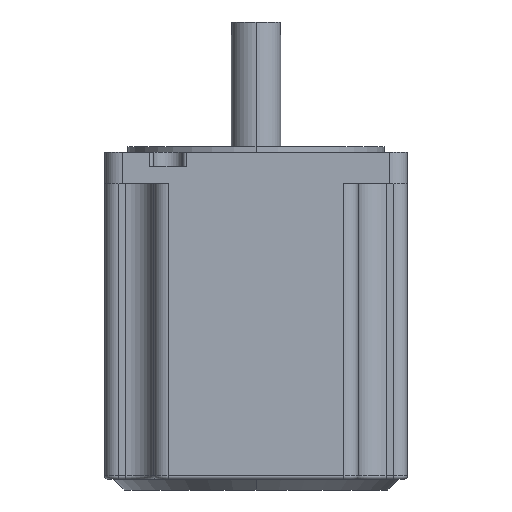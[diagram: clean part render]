
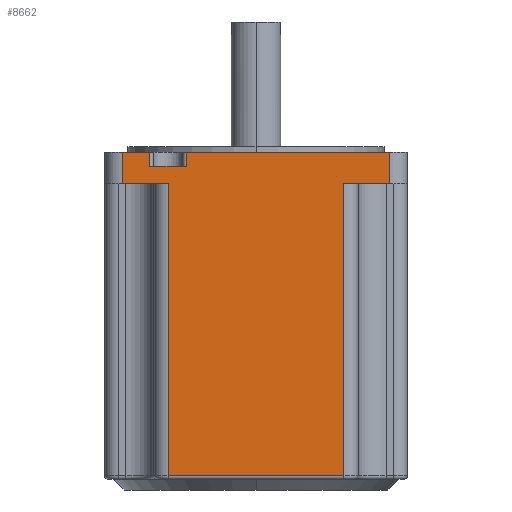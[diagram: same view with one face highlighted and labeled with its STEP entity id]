
A CAD part, left-side view. The second image highlights one B-rep face of the part: STEP entity #8662.
In plain terms, the highlighted planar face has unit normal (-1, 0, 0).
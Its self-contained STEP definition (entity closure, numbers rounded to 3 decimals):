
#671=DIRECTION('',(0.,1.,0.));
#672=VECTOR('',#671,50.);
#673=CARTESIAN_POINT('',(0.,18.,-31.));
#674=LINE('',#673,#672);
#679=DIRECTION('',(0.,1.,0.));
#680=VECTOR('',#679,7.75);
#681=CARTESIAN_POINT('',(0.,73.25,61.));
#682=LINE('',#681,#680);
#683=DIRECTION('',(0.,1.,0.));
#684=VECTOR('',#683,57.75);
#685=CARTESIAN_POINT('',(0.,5.,61.));
#686=LINE('',#685,#684);
#691=DIRECTION('',(0.,0.,1.));
#692=VECTOR('',#691,83.);
#693=CARTESIAN_POINT('',(0.,68.,-31.));
#694=LINE('',#693,#692);
#893=DIRECTION('',(0.,0.,1.));
#894=VECTOR('',#893,9.);
#895=CARTESIAN_POINT('',(0.,81.,52.));
#896=LINE('',#895,#894);
#901=DIRECTION('',(0.,1.,0.));
#902=VECTOR('',#901,13.);
#903=CARTESIAN_POINT('',(0.,68.,52.));
#904=LINE('',#903,#902);
#951=DIRECTION('',(0.,0.,-1.));
#952=VECTOR('',#951,4.);
#953=CARTESIAN_POINT('',(0.,73.25,61.));
#954=LINE('',#953,#952);
#959=DIRECTION('',(0.,-1.,0.));
#960=VECTOR('',#959,10.5);
#961=CARTESIAN_POINT('',(0.,73.25,57.));
#962=LINE('',#961,#960);
#1004=DIRECTION('',(0.,0.,1.));
#1005=VECTOR('',#1004,4.);
#1006=CARTESIAN_POINT('',(0.,62.75,57.));
#1007=LINE('',#1006,#1005);
#1034=DIRECTION('',(0.,0.,-1.));
#1035=VECTOR('',#1034,9.);
#1036=CARTESIAN_POINT('',(0.,5.,61.));
#1037=LINE('',#1036,#1035);
#1138=DIRECTION('',(0.,0.,-1.));
#1139=VECTOR('',#1138,83.);
#1140=CARTESIAN_POINT('',(0.,18.,52.));
#1141=LINE('',#1140,#1139);
#1165=DIRECTION('',(0.,1.,0.));
#1166=VECTOR('',#1165,13.);
#1167=CARTESIAN_POINT('',(0.,5.,52.));
#1168=LINE('',#1167,#1166);
#6668=CARTESIAN_POINT('',(0.,68.,-31.));
#6669=VERTEX_POINT('',#6668);
#6670=CARTESIAN_POINT('',(0.,68.,52.));
#6671=VERTEX_POINT('',#6670);
#6672=CARTESIAN_POINT('',(0.,18.,-31.));
#6673=VERTEX_POINT('',#6672);
#6674=CARTESIAN_POINT('',(0.,18.,52.));
#6675=VERTEX_POINT('',#6674);
#6708=CARTESIAN_POINT('',(0.,5.,52.));
#6709=VERTEX_POINT('',#6708);
#6710=CARTESIAN_POINT('',(0.,5.,61.));
#6711=VERTEX_POINT('',#6710);
#6712=CARTESIAN_POINT('',(0.,62.75,61.));
#6713=VERTEX_POINT('',#6712);
#6714=CARTESIAN_POINT('',(0.,62.75,57.));
#6715=VERTEX_POINT('',#6714);
#6716=CARTESIAN_POINT('',(0.,73.25,57.));
#6717=VERTEX_POINT('',#6716);
#6718=CARTESIAN_POINT('',(0.,73.25,61.));
#6719=VERTEX_POINT('',#6718);
#6720=CARTESIAN_POINT('',(0.,81.,61.));
#6721=VERTEX_POINT('',#6720);
#6722=CARTESIAN_POINT('',(0.,81.,52.));
#6723=VERTEX_POINT('',#6722);
#8634=CARTESIAN_POINT('',(0.,86.,22.5));
#8635=DIRECTION('',(1.,0.,0.));
#8636=DIRECTION('',(0.,1.,0.));
#8637=AXIS2_PLACEMENT_3D('',#8634,#8635,#8636);
#8638=PLANE('',#8637);
#8640=ORIENTED_EDGE('',*,*,#8639,.T.);
#8642=ORIENTED_EDGE('',*,*,#8641,.T.);
#8644=ORIENTED_EDGE('',*,*,#8643,.T.);
#8645=ORIENTED_EDGE('',*,*,#8290,.F.);
#8647=ORIENTED_EDGE('',*,*,#8646,.T.);
#8649=ORIENTED_EDGE('',*,*,#8648,.T.);
#8651=ORIENTED_EDGE('',*,*,#8650,.T.);
#8652=ORIENTED_EDGE('',*,*,#8278,.F.);
#8654=ORIENTED_EDGE('',*,*,#8653,.T.);
#8656=ORIENTED_EDGE('',*,*,#8655,.T.);
#8658=ORIENTED_EDGE('',*,*,#8657,.T.);
#8659=ORIENTED_EDGE('',*,*,#8625,.T.);
#8660=EDGE_LOOP('',(#8640,#8642,#8644,#8645,#8647,#8649,#8651,#8652,#8654,#8656,
#8658,#8659));
#8661=FACE_OUTER_BOUND('',#8660,.F.);
#8662=ADVANCED_FACE('',(#8661),#8638,.F.);
#8278=EDGE_CURVE('',#6711,#6713,#686,.T.);
#8290=EDGE_CURVE('',#6719,#6721,#682,.T.);
#8625=EDGE_CURVE('',#6673,#6669,#674,.T.);
#8639=EDGE_CURVE('',#6669,#6671,#694,.T.);
#8641=EDGE_CURVE('',#6671,#6723,#904,.T.);
#8643=EDGE_CURVE('',#6723,#6721,#896,.T.);
#8646=EDGE_CURVE('',#6719,#6717,#954,.T.);
#8648=EDGE_CURVE('',#6717,#6715,#962,.T.);
#8650=EDGE_CURVE('',#6715,#6713,#1007,.T.);
#8653=EDGE_CURVE('',#6711,#6709,#1037,.T.);
#8655=EDGE_CURVE('',#6709,#6675,#1168,.T.);
#8657=EDGE_CURVE('',#6675,#6673,#1141,.T.);
